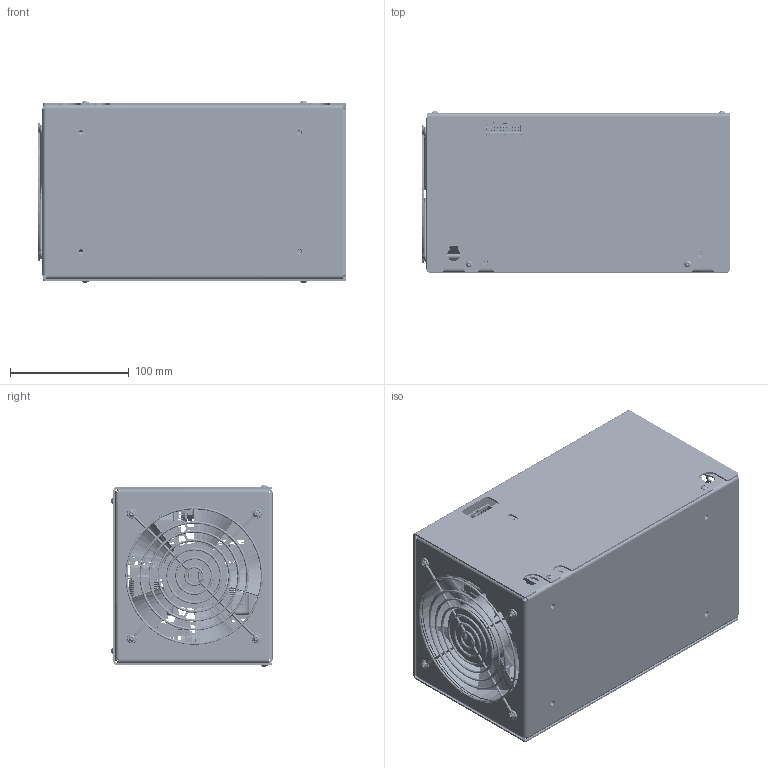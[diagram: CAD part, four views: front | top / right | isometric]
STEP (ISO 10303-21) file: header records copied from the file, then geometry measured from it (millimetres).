
FILE_DESCRIPTION (( 'STEP AP214' ), '1' );
FILE_NAME ('429.00.00.000-03 PCP-35.STEP', '2025-03-30T20:39:48', ( '' ), ( '' ), 'SwSTEP 2.0', 'SolidWorks 2019', '' );
FILE_SCHEMA (( 'AUTOMOTIVE_DESIGN' ));
Length unit declared in the file: millimetre
Products named in the file (31): 妈眚 󉱴 ISO7380; 429.01.00.002-01 ﾊ煇鳫; Øïèëüêà M5x16; Âòóëêà ðåçüá. íåïîëíîïðîõ. BSO-M3-16 ZI; ﾘ琺矜 ﾌ3 DIN127; ﾘ琺矜 ﾌ3 DIN125; ﾘ琺矜 ﾌ5 DIN127; Ãàéêà CN clinch nut M3; 429.00.00.001-03 Êðûøêà; Âòóëêà ðåçüá. íåïîëíîïðîõ. BSO-M3-25 ZI; Äèîäíûé ìîñò KBPC3510; 429.00.00.000-03 PCP-35; 429.01.00.002 ﾊ煇鳫; 妈眚 󉱲 ISO7380; 429.01.00.000-03 PCP-35 Ñáîðî÷íàÿ åäèíèöà; 429.01.00.003-01 ﾊ煇鳫; Ðåøåòêà-ãðèëü 120õ120; Çàêëåïêà 3,2x10 ALU-ST, ïîòàéíàÿ ãîëîâêà ISO 15978 (2019); 008.CK.001.A01 PCP-35 FUSE-1 êáë.; Âåíòèëÿòîð 120õ120õ38; Âòóëêà ðåçüá. íåïîëíîïðîõ. BSO-M3-8 ZI (2018)_BSO-M3-8-ZI; ﾘ琺矜 ﾌ5 DIN125; 421.02.00.000 Ïëàòà PCP30; 429.01.00.003 ﾊ煇鳫; Ñòîéêà äèñòàíöèðóþùàÿ ñ ðåçüáîé Dremec 224x10; Ãàéêà Ì5 DIN934; 429.01.00.001-03 扻豵鵨; 429.01.00.004 Èçîëÿòîð PCP-35; 妈眚 󉱴 DIN912; Ãàéêà CN clinch nut M4; 009.CK.001.A01 PCP-35 FUSE-2 êáë.
Assembly tree (97 placements, depth 3):
  429.00.00.000-03 PCP-35
    429.01.00.000-03 PCP-35 Ñáîðî÷íàÿ åäèíèöà
      429.01.00.001-03 扻豵鵨
      429.01.00.002 ﾊ煇鳫
      429.01.00.002-01 ﾊ煇鳫
      429.01.00.003 ﾊ煇鳫
      429.01.00.003-01 ﾊ煇鳫
      429.01.00.004 Èçîëÿòîð PCP-35
      Âåíòèëÿòîð 120õ120õ38
      Ðåøåòêà-ãðèëü 120õ120
      Âòóëêà ðåçüá. íåïîëíîïðîõ. BSO-M3-25 ZI  x4
      Ñòîéêà äèñòàíöèðóþùàÿ ñ ðåçüáîé Dremec 224x10  x4
      妈眚 󉱴 ISO7380  x4
      Âòóëêà ðåçüá. íåïîëíîïðîõ. BSO-M3-8 ZI (2018)_BSO-M3-8-ZI  x4
      Âòóëêà ðåçüá. íåïîëíîïðîõ. BSO-M3-16 ZI  x4
      Ãàéêà CN clinch nut M3  x8
      Ãàéêà CN clinch nut M4  x5
      Çàêëåïêà 3,2x10 ALU-ST, ïîòàéíàÿ ãîëîâêà ISO 15978 (2019)  x8
      Øïèëüêà M5x16  x2
    421.02.00.000 Ïëàòà PCP30  x2
    429.00.00.001-03 Êðûøêà
    008.CK.001.A01 PCP-35 FUSE-1 êáë.
    009.CK.001.A01 PCP-35 FUSE-2 êáë.
    Äèîäíûé ìîñò KBPC3510  x2
    ﾘ琺矜 ﾌ5 DIN125  x2
    ﾘ琺矜 ﾌ5 DIN127  x2
    Ãàéêà Ì5 DIN934  x2
    ﾘ琺矜 ﾌ3 DIN125  x8
    ﾘ琺矜 ﾌ3 DIN127  x8
    妈眚 󉱴 DIN912  x8
    妈眚 󉱲 ISO7380  x8
Bounding box: 260 x 135.65 x 153.3 mm (x, y, z)
Volume: 493434.7 mm3; surface area: 946869.5 mm2
Topology: 111 solids, 4491 shells, 29934 faces, 133451 edges, 105890 vertices
Faces by surface type: plane 16764, cylinder 8782, bspline 3948, cone 360, torus 60, sphere 20
Entity records: 859451 total; most frequent: CARTESIAN_POINT 227745, ORIENTED_EDGE 94002, DIRECTION 81096, EDGE_CURVE 67173, VERTEX_POINT 53377, LINE 36620, VECTOR 36620, AXIS2_PLACEMENT_3D 22238
